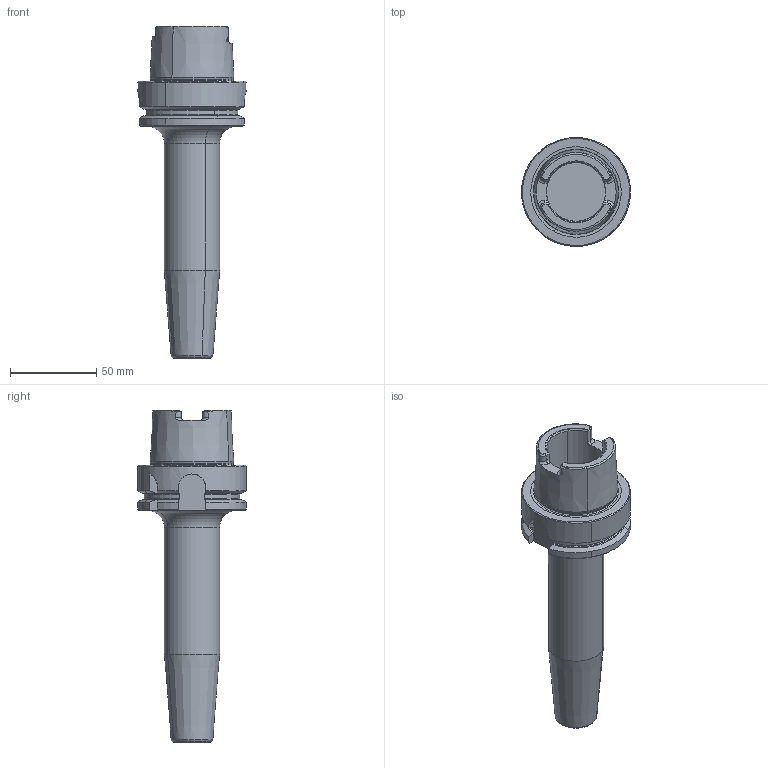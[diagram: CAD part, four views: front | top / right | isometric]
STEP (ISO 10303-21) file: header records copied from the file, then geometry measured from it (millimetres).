
FILE_DESCRIPTION(('CATIA V5 STEP','CAx-IF Rec.Pracs.--- Model Styling and Organization---1.2---2011-12-15'),'2;1');
FILE_NAME('\\nas01\drv1\utils\eitdev\rte\eit\transmagicconvert\db\out\4504022 L.stp','2014-04-02T04:40:09+00:00',('none'),('none'),'CATIA Version 5 Release 21 SP 5 (IN-10)','CATIA V5 STEP AP214','none');
FILE_SCHEMA(('AUTOMOTIVE_DESIGN { 1 0 10303 214 1 1 1 1 }'));
Length unit declared in the file: millimetre
Products named in the file (1): 60781276_0 Holder-Tool HSK A 63 SRKIN 12X160
Bounding box: 62.99 x 63 x 192 mm (x, y, z)
Volume: 191214 mm3; surface area: 33071.3 mm2
Topology: 1 solids, 1 shells, 136 faces, 365 edges, 234 vertices
Faces by surface type: plane 41, cone 35, cylinder 32, torus 28
Entity records: 4356 total; most frequent: CARTESIAN_POINT 1324, ORIENTED_EDGE 730, DIRECTION 448, EDGE_CURVE 365, VERTEX_POINT 234, AXIS2_PLACEMENT_3D 232, CIRCLE 151, EDGE_LOOP 139
